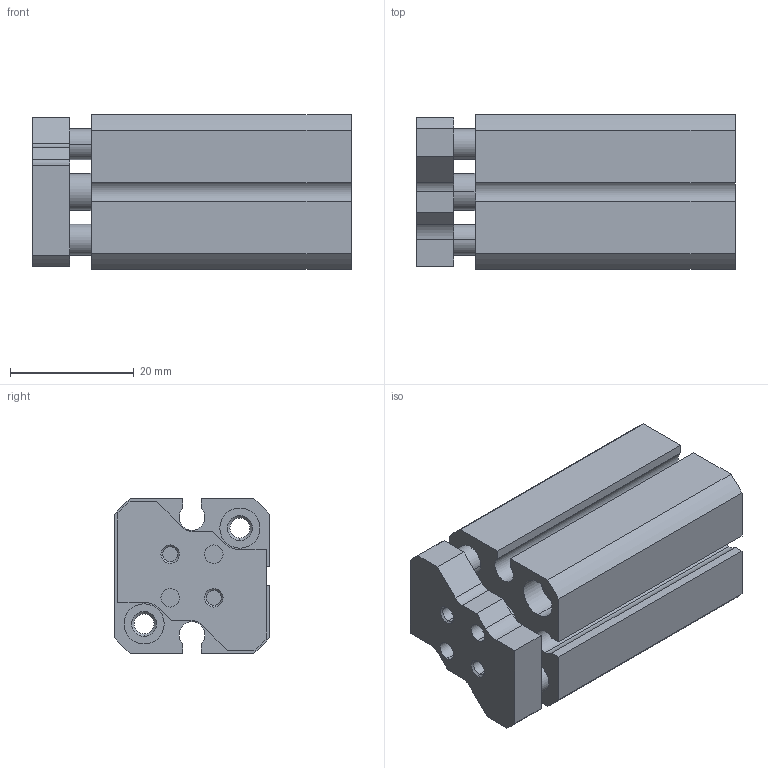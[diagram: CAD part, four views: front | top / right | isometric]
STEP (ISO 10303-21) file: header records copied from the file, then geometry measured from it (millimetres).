
FILE_DESCRIPTION (( 'STEP AP203' ), '1' );
FILE_NAME ('CCMG12-20.STEP', '2020-04-01T17:47:48', ( '' ), ( '' ), 'SwSTEP 2.0', 'SolidWorks 2019', '' );
FILE_SCHEMA (( 'CONFIG_CONTROL_DESIGN' ));
Length unit declared in the file: millimetre
Products named in the file (1): CCMG12-20
Bounding box: 51.5 x 25 x 25 mm (x, y, z)
Volume: 23062.3 mm3; surface area: 13548.5 mm2
Topology: 2 solids, 2 shells, 133 faces, 315 edges, 200 vertices
Faces by surface type: cylinder 64, plane 45, cone 24
Entity records: 3936 total; most frequent: DIRECTION 727, CARTESIAN_POINT 645, ORIENTED_EDGE 622, EDGE_CURVE 311, AXIS2_PLACEMENT_3D 282, VERTEX_POINT 200, VECTOR 163, LINE 163
